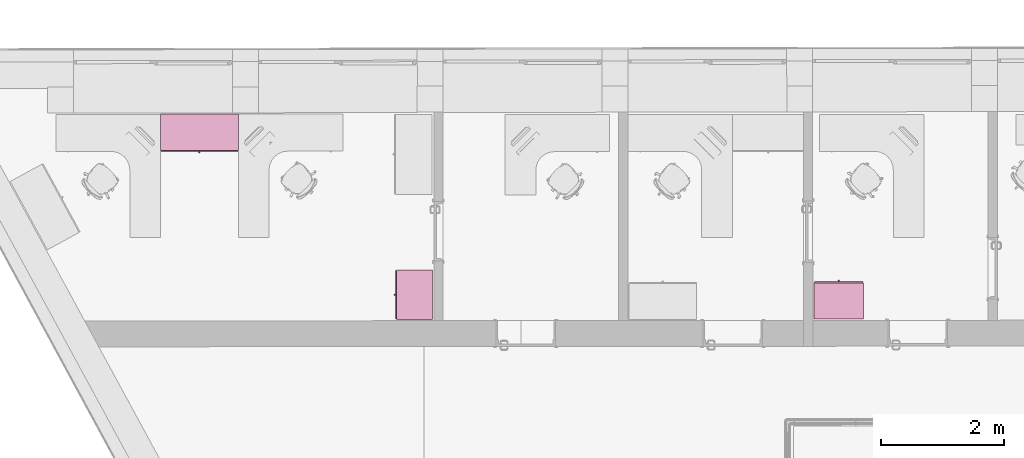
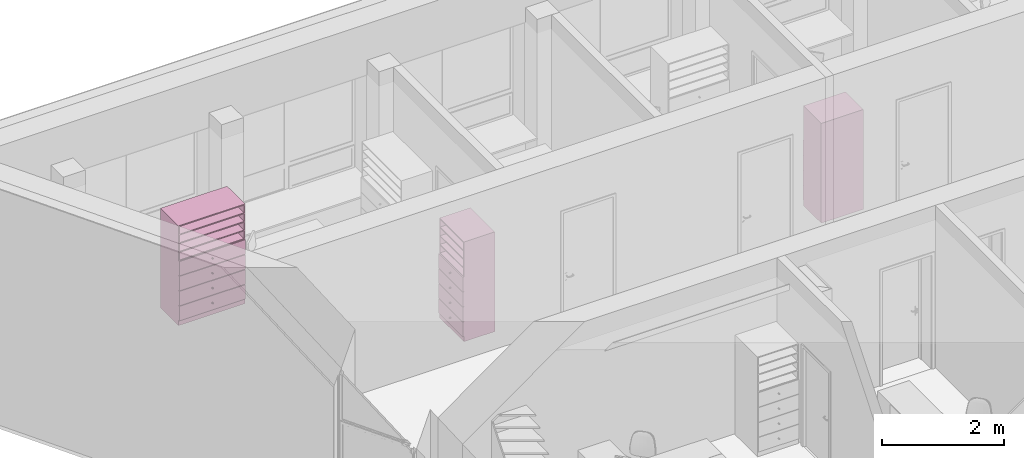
# One storey, part 127 of 194: 3 furnishings.
"""IFC2X3 building model written with IfcOpenShell, lengths in millimetres."""

from ifc_helpers import new_model, entity, si_unit, converted_unit, derived_unit, money_unit, direction, frame, origin_with_axes, place, context, subcontext, project, spatial, faceted_brep, source, transform, mapped, type_object, element, save


model = new_model("IFC2X3")

# Units and contexts
model_context = context("Model", 3, precision=1e-05, world=origin_with_axes(), true_north=direction((0.0, 1.0)))
body_context = subcontext(model_context, "Body", "Model", "MODEL_VIEW")
ifc_project = project(units=[si_unit("LENGTHUNIT", "METRE", prefix="MILLI"), si_unit("AREAUNIT", "SQUARE_METRE"), si_unit("VOLUMEUNIT", "CUBIC_METRE"), converted_unit("PLANEANGLEUNIT", "DEGREE", entity("IfcPlaneAngleMeasure", 0.0174532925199), si_unit("PLANEANGLEUNIT", "RADIAN"), dimensions=[0, 0, 0, 0, 0, 0, 0]), si_unit("SOLIDANGLEUNIT", "STERADIAN"), money_unit("EUR"), converted_unit("TIMEUNIT", "Year", entity("IfcTimeMeasure", 31556926.0), si_unit("TIMEUNIT", "SECOND"), dimensions=[0, 0, 1, 0, 0, 0, 0]), si_unit("MASSUNIT", "GRAM", prefix="KILO"), si_unit("THERMODYNAMICTEMPERATUREUNIT", "DEGREE_CELSIUS"), si_unit("LUMINOUSINTENSITYUNIT", "LUMEN"), si_unit("ENERGYUNIT", "JOULE", prefix="MEGA"), derived_unit("THERMALCONDUCTANCEUNIT", [(si_unit("POWERUNIT", "WATT"), 1), (si_unit("LENGTHUNIT", "METRE"), -1), (si_unit("THERMODYNAMICTEMPERATUREUNIT", "KELVIN"), -1)]), derived_unit("SPECIFICHEATCAPACITYUNIT", [(si_unit("ENERGYUNIT", "JOULE"), 1), (si_unit("MASSUNIT", "GRAM", prefix="KILO"), -1), (si_unit("THERMODYNAMICTEMPERATUREUNIT", "KELVIN"), -1)]), derived_unit("MASSDENSITYUNIT", [(si_unit("MASSUNIT", "GRAM", prefix="KILO"), 1), (si_unit("VOLUMEUNIT", "CUBIC_METRE"), -1)])], contexts=[model_context])

# Site, building, storey
site_placement = place(None, origin_with_axes())
site = spatial("IfcSite", under=ifc_project, at=site_placement, Name="Site", CompositionType="ELEMENT")
building_placement = place(site_placement, origin_with_axes())
building = spatial("IfcBuilding", under=site, at=building_placement, Name="Building", CompositionType="ELEMENT")
storey_placement = place(building_placement, frame((0.0, 0.0, 3000.0), z_axis=(0.0, 0.0, 1.0), x_axis=(1.0, 0.0, 0.0)))
storey = spatial("IfcBuildingStorey", under=building, at=storey_placement, Name="2 KORRUS", CompositionType="ELEMENT", Elevation=3000.0)

# Furnishings
furnishing_element_type_1 = type_object("IfcFurnishingElementType", Name="Model Element 16")
shared_shape_1 = source(origin_with_axes(), body_context, "Body", "Brep", [
    faceted_brep([(1262.46161787, 19.0, 0.0), (0.0, 19.0, 0.0), (0.0, 605.7383933, 0.0), (1262.46161787, 605.7383933, 0.0), (1262.46161787, 19.0, 100.0), (0.0, 19.0, 100.0), (0.0, 605.7383933, 100.0), (1262.46161787, 605.7383933, 100.0)], [[[0, 1, 2, 3]], [[1, 0, 4, 5]], [[2, 1, 5, 6]], [[3, 2, 6, 7]], [[0, 3, 7, 4]], [[5, 4, 7, 6]]]),
    faceted_brep([(19.0, 605.7383933, 119.0), (19.0, 586.7383933, 119.0), (19.0, 586.7383933, 1981.0), (19.0, 605.7383933, 1981.0), (1243.46161787, 605.7383933, 119.0), (1243.46161787, 586.7383933, 119.0), (1243.46161787, 586.7383933, 1981.0), (1243.46161787, 605.7383933, 1981.0)], [[[0, 1, 2, 3]], [[0, 4, 5, 1]], [[1, 5, 6, 2]], [[3, 2, 6, 7]], [[4, 0, 3, 7]], [[5, 4, 7, 6]]]),
    faceted_brep([(1262.46161787, 19.0, 100.0), (1243.46161787, 19.0, 100.0), (1243.46161787, 605.7383933, 100.0), (1262.46161787, 605.7383933, 100.0), (1262.46161787, 19.0, 2000.0), (1243.46161787, 19.0, 2000.0), (1243.46161787, 605.7383933, 2000.0), (1262.46161787, 605.7383933, 2000.0)], [[[0, 1, 2, 3]], [[1, 0, 4, 5]], [[2, 1, 5, 6]], [[3, 2, 6, 7]], [[0, 3, 7, 4]], [[5, 4, 7, 6]]]),
    faceted_brep([(19.0, 19.0, 100.0), (0.0, 19.0, 100.0), (0.0, 605.7383933, 100.0), (19.0, 605.7383933, 100.0), (19.0, 19.0, 2000.0), (0.0, 19.0, 2000.0), (0.0, 605.7383933, 2000.0), (19.0, 605.7383933, 2000.0)], [[[0, 1, 2, 3]], [[1, 0, 4, 5]], [[2, 1, 5, 6]], [[3, 2, 6, 7]], [[0, 3, 7, 4]], [[5, 4, 7, 6]]]),
    faceted_brep([(1243.46161787, 19.0, 100.0), (19.0, 19.0, 100.0), (19.0, 605.7383933, 100.0), (1243.46161787, 605.7383933, 100.0), (1243.46161787, 19.0, 119.0), (19.0, 19.0, 119.0), (19.0, 605.7383933, 119.0), (1243.46161787, 605.7383933, 119.0)], [[[0, 1, 2, 3]], [[1, 0, 4, 5]], [[2, 1, 5, 6]], [[3, 2, 6, 7]], [[0, 3, 7, 4]], [[5, 4, 7, 6]]]),
    faceted_brep([(1243.46161787, 19.0, 1981.0), (19.0, 19.0, 1981.0), (19.0, 605.7383933, 1981.0), (1243.46161787, 605.7383933, 1981.0), (1243.46161787, 19.0, 2000.0), (19.0, 19.0, 2000.0), (19.0, 605.7383933, 2000.0), (1243.46161787, 605.7383933, 2000.0)], [[[0, 1, 2, 3]], [[1, 0, 4, 5]], [[2, 1, 5, 6]], [[3, 2, 6, 7]], [[0, 3, 7, 4]], [[5, 4, 7, 6]]]),
    faceted_brep([(5.0, 19.0, 105.0), (1257.46161787, 19.0, 105.0), (1257.46161787, 0.0, 105.0), (5.0, 0.0, 105.0), (5.0, 19.0, 395.0), (1257.46161787, 19.0, 395.0), (1257.46161787, 0.0, 395.0), (5.0, 0.0, 395.0)], [[[0, 1, 2, 3]], [[0, 4, 5, 1]], [[1, 5, 6, 2]], [[3, 2, 6, 7]], [[4, 0, 3, 7]], [[5, 4, 7, 6]]]),
    faceted_brep([(641.623113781, 0.0, 244.0), (637.230808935, 0.0, 239.607695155), (631.230808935, 0.0, 238.0), (625.230808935, 0.0, 239.607695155), (620.83850409, 0.0, 244.0), (619.230808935, 0.0, 250.0), (620.83850409, 0.0, 256.0), (625.230808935, 0.0, 260.392304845), (631.230808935, 0.0, 262.0), (637.230808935, 0.0, 260.392304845), (641.623113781, 0.0, 256.0), (643.230808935, 0.0, 250.0), (641.623113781, -25.0, 244.0), (637.230808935, -25.0, 239.607695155), (631.230808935, -25.0, 238.0), (625.230808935, -25.0, 239.607695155), (620.83850409, -25.0, 244.0), (619.230808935, -25.0, 250.0), (620.83850409, -25.0, 256.0), (625.230808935, -25.0, 260.392304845), (631.230808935, -25.0, 262.0), (637.230808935, -25.0, 260.392304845), (641.623113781, -25.0, 256.0), (643.230808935, -25.0, 250.0)], [[[0, 1, 2, 3, 4, 5, 6, 7, 8, 9, 10, 11]], [[1, 0, 12, 13]], [[2, 1, 13, 14]], [[3, 2, 14, 15]], [[4, 3, 15, 16]], [[5, 4, 16, 17]], [[6, 5, 17, 18]], [[7, 6, 18, 19]], [[8, 7, 19, 20]], [[9, 8, 20, 21]], [[10, 9, 21, 22]], [[11, 10, 22, 23]], [[0, 11, 23, 12]], [[12, 23, 22, 21, 20, 19, 18, 17, 16, 15, 14, 13]]]),
    faceted_brep([(5.0, 19.0, 405.0), (1257.46161787, 19.0, 405.0), (1257.46161787, 0.0, 405.0), (5.0, 0.0, 405.0), (5.0, 19.0, 695.0), (1257.46161787, 19.0, 695.0), (1257.46161787, 0.0, 695.0), (5.0, 0.0, 695.0)], [[[0, 1, 2, 3]], [[0, 4, 5, 1]], [[1, 5, 6, 2]], [[3, 2, 6, 7]], [[4, 0, 3, 7]], [[5, 4, 7, 6]]]),
    faceted_brep([(641.623113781, 0.0, 544.0), (637.230808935, 0.0, 539.607695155), (631.230808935, 0.0, 538.0), (625.230808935, 0.0, 539.607695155), (620.83850409, 0.0, 544.0), (619.230808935, 0.0, 550.0), (620.83850409, 0.0, 556.0), (625.230808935, 0.0, 560.392304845), (631.230808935, 0.0, 562.0), (637.230808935, 0.0, 560.392304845), (641.623113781, 0.0, 556.0), (643.230808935, 0.0, 550.0), (641.623113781, -25.0, 544.0), (637.230808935, -25.0, 539.607695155), (631.230808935, -25.0, 538.0), (625.230808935, -25.0, 539.607695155), (620.83850409, -25.0, 544.0), (619.230808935, -25.0, 550.0), (620.83850409, -25.0, 556.0), (625.230808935, -25.0, 560.392304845), (631.230808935, -25.0, 562.0), (637.230808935, -25.0, 560.392304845), (641.623113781, -25.0, 556.0), (643.230808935, -25.0, 550.0)], [[[0, 1, 2, 3, 4, 5, 6, 7, 8, 9, 10, 11]], [[1, 0, 12, 13]], [[2, 1, 13, 14]], [[3, 2, 14, 15]], [[4, 3, 15, 16]], [[5, 4, 16, 17]], [[6, 5, 17, 18]], [[7, 6, 18, 19]], [[8, 7, 19, 20]], [[9, 8, 20, 21]], [[10, 9, 21, 22]], [[11, 10, 22, 23]], [[0, 11, 23, 12]], [[12, 23, 22, 21, 20, 19, 18, 17, 16, 15, 14, 13]]]),
    faceted_brep([(5.0, 19.0, 705.0), (1257.46161787, 19.0, 705.0), (1257.46161787, 0.0, 705.0), (5.0, 0.0, 705.0), (5.0, 19.0, 995.0), (1257.46161787, 19.0, 995.0), (1257.46161787, 0.0, 995.0), (5.0, 0.0, 995.0)], [[[0, 1, 2, 3]], [[0, 4, 5, 1]], [[1, 5, 6, 2]], [[3, 2, 6, 7]], [[4, 0, 3, 7]], [[5, 4, 7, 6]]]),
    faceted_brep([(641.623113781, 0.0, 844.0), (637.230808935, 0.0, 839.607695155), (631.230808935, 0.0, 838.0), (625.230808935, 0.0, 839.607695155), (620.83850409, 0.0, 844.0), (619.230808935, 0.0, 850.0), (620.83850409, 0.0, 856.0), (625.230808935, 0.0, 860.392304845), (631.230808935, 0.0, 862.0), (637.230808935, 0.0, 860.392304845), (641.623113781, 0.0, 856.0), (643.230808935, 0.0, 850.0), (641.623113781, -25.0, 844.0), (637.230808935, -25.0, 839.607695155), (631.230808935, -25.0, 838.0), (625.230808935, -25.0, 839.607695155), (620.83850409, -25.0, 844.0), (619.230808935, -25.0, 850.0), (620.83850409, -25.0, 856.0), (625.230808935, -25.0, 860.392304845), (631.230808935, -25.0, 862.0), (637.230808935, -25.0, 860.392304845), (641.623113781, -25.0, 856.0), (643.230808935, -25.0, 850.0)], [[[0, 1, 2, 3, 4, 5, 6, 7, 8, 9, 10, 11]], [[1, 0, 12, 13]], [[2, 1, 13, 14]], [[3, 2, 14, 15]], [[4, 3, 15, 16]], [[5, 4, 16, 17]], [[6, 5, 17, 18]], [[7, 6, 18, 19]], [[8, 7, 19, 20]], [[9, 8, 20, 21]], [[10, 9, 21, 22]], [[11, 10, 22, 23]], [[0, 11, 23, 12]], [[12, 23, 22, 21, 20, 19, 18, 17, 16, 15, 14, 13]]]),
    faceted_brep([(5.0, 19.0, 1005.0), (1257.46161787, 19.0, 1005.0), (1257.46161787, 0.0, 1005.0), (5.0, 0.0, 1005.0), (5.0, 19.0, 1295.0), (1257.46161787, 19.0, 1295.0), (1257.46161787, 0.0, 1295.0), (5.0, 0.0, 1295.0)], [[[0, 1, 2, 3]], [[0, 4, 5, 1]], [[1, 5, 6, 2]], [[3, 2, 6, 7]], [[4, 0, 3, 7]], [[5, 4, 7, 6]]]),
    faceted_brep([(641.623113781, 0.0, 1144.0), (637.230808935, 0.0, 1139.60769515), (631.230808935, 0.0, 1138.0), (625.230808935, 0.0, 1139.60769515), (620.83850409, 0.0, 1144.0), (619.230808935, 0.0, 1150.0), (620.83850409, 0.0, 1156.0), (625.230808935, 0.0, 1160.39230485), (631.230808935, 0.0, 1162.0), (637.230808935, 0.0, 1160.39230485), (641.623113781, 0.0, 1156.0), (643.230808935, 0.0, 1150.0), (641.623113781, -25.0, 1144.0), (637.230808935, -25.0, 1139.60769515), (631.230808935, -25.0, 1138.0), (625.230808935, -25.0, 1139.60769515), (620.83850409, -25.0, 1144.0), (619.230808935, -25.0, 1150.0), (620.83850409, -25.0, 1156.0), (625.230808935, -25.0, 1160.39230485), (631.230808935, -25.0, 1162.0), (637.230808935, -25.0, 1160.39230485), (641.623113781, -25.0, 1156.0), (643.230808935, -25.0, 1150.0)], [[[0, 1, 2, 3, 4, 5, 6, 7, 8, 9, 10, 11]], [[1, 0, 12, 13]], [[2, 1, 13, 14]], [[3, 2, 14, 15]], [[4, 3, 15, 16]], [[5, 4, 16, 17]], [[6, 5, 17, 18]], [[7, 6, 18, 19]], [[8, 7, 19, 20]], [[9, 8, 20, 21]], [[10, 9, 21, 22]], [[11, 10, 22, 23]], [[0, 11, 23, 12]], [[12, 23, 22, 21, 20, 19, 18, 17, 16, 15, 14, 13]]]),
    faceted_brep([(19.0, 19.0, 390.5), (1243.46161787, 19.0, 390.5), (1243.46161787, 19.0, 409.5), (19.0, 19.0, 409.5), (19.0, 586.7383933, 390.5), (1243.46161787, 586.7383933, 390.5), (1243.46161787, 586.7383933, 409.5), (19.0, 586.7383933, 409.5)], [[[0, 1, 2, 3]], [[0, 4, 5, 1]], [[1, 5, 6, 2]], [[3, 2, 6, 7]], [[4, 0, 3, 7]], [[5, 4, 7, 6]]]),
    faceted_brep([(19.0, 19.0, 690.5), (1243.46161787, 19.0, 690.5), (1243.46161787, 19.0, 709.5), (19.0, 19.0, 709.5), (19.0, 586.7383933, 690.5), (1243.46161787, 586.7383933, 690.5), (1243.46161787, 586.7383933, 709.5), (19.0, 586.7383933, 709.5)], [[[0, 1, 2, 3]], [[0, 4, 5, 1]], [[1, 5, 6, 2]], [[3, 2, 6, 7]], [[4, 0, 3, 7]], [[5, 4, 7, 6]]]),
    faceted_brep([(19.0, 19.0, 990.5), (1243.46161787, 19.0, 990.5), (1243.46161787, 19.0, 1009.5), (19.0, 19.0, 1009.5), (19.0, 586.7383933, 990.5), (1243.46161787, 586.7383933, 990.5), (1243.46161787, 586.7383933, 1009.5), (19.0, 586.7383933, 1009.5)], [[[0, 1, 2, 3]], [[0, 4, 5, 1]], [[1, 5, 6, 2]], [[3, 2, 6, 7]], [[4, 0, 3, 7]], [[5, 4, 7, 6]]]),
    faceted_brep([(19.0, 19.0, 1290.5), (1243.46161787, 19.0, 1290.5), (1243.46161787, 19.0, 1309.5), (19.0, 19.0, 1309.5), (19.0, 586.7383933, 1290.5), (1243.46161787, 586.7383933, 1290.5), (1243.46161787, 586.7383933, 1309.5), (19.0, 586.7383933, 1309.5)], [[[0, 1, 2, 3]], [[0, 4, 5, 1]], [[1, 5, 6, 2]], [[3, 2, 6, 7]], [[4, 0, 3, 7]], [[5, 4, 7, 6]]]),
    faceted_brep([(1243.46161787, 19.0, 1463.125), (19.0, 19.0, 1463.125), (19.0, 586.7383933, 1463.125), (1243.46161787, 586.7383933, 1463.125), (1243.46161787, 19.0, 1482.125), (19.0, 19.0, 1482.125), (19.0, 586.7383933, 1482.125), (1243.46161787, 586.7383933, 1482.125)], [[[0, 1, 2, 3]], [[1, 0, 4, 5]], [[2, 1, 5, 6]], [[3, 2, 6, 7]], [[0, 3, 7, 4]], [[5, 4, 7, 6]]]),
    faceted_brep([(1243.46161787, 19.0, 1635.75), (19.0, 19.0, 1635.75), (19.0, 586.7383933, 1635.75), (1243.46161787, 586.7383933, 1635.75), (1243.46161787, 19.0, 1654.75), (19.0, 19.0, 1654.75), (19.0, 586.7383933, 1654.75), (1243.46161787, 586.7383933, 1654.75)], [[[0, 1, 2, 3]], [[1, 0, 4, 5]], [[2, 1, 5, 6]], [[3, 2, 6, 7]], [[0, 3, 7, 4]], [[5, 4, 7, 6]]]),
    faceted_brep([(1243.46161787, 19.0, 1808.375), (19.0, 19.0, 1808.375), (19.0, 586.7383933, 1808.375), (1243.46161787, 586.7383933, 1808.375), (1243.46161787, 19.0, 1827.375), (19.0, 19.0, 1827.375), (19.0, 586.7383933, 1827.375), (1243.46161787, 586.7383933, 1827.375)], [[[0, 1, 2, 3]], [[1, 0, 4, 5]], [[2, 1, 5, 6]], [[3, 2, 6, 7]], [[0, 3, 7, 4]], [[5, 4, 7, 6]]]),
])
furnishing_placement = place(storey_placement, frame((14568.2014755, 45827.6939016, 0.0), z_axis=(0.0, 0.0, 1.0), x_axis=(1.0, 0.0, 0.0)))
element("IfcFurnishingElement", 1, at=furnishing_placement, inside=storey, type_object=furnishing_element_type_1, Name="FU - 001", context=body_context, shape_type="MappedRepresentation", body=[
    mapped(shared_shape_1, transform((0.0, 0.0, 0.0))),
])
furnishing_element_type_2 = type_object("IfcFurnishingElementType", Name="Model Element 13")
shared_shape_2 = source(origin_with_axes(), body_context, "Body", "Brep", [
    faceted_brep([(800.0, 19.0, 0.0), (0.0, 19.0, 0.0), (0.0, 605.420194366, 0.0), (800.0, 605.420194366, 0.0), (800.0, 19.0, 100.0), (0.0, 19.0, 100.0), (0.0, 605.420194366, 100.0), (800.0, 605.420194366, 100.0)], [[[0, 1, 2, 3]], [[1, 0, 4, 5]], [[2, 1, 5, 6]], [[3, 2, 6, 7]], [[0, 3, 7, 4]], [[5, 4, 7, 6]]]),
    faceted_brep([(19.0, 605.420194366, 119.0), (19.0, 586.420194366, 119.0), (19.0, 586.420194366, 1981.0), (19.0, 605.420194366, 1981.0), (781.0, 605.420194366, 119.0), (781.0, 586.420194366, 119.0), (781.0, 586.420194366, 1981.0), (781.0, 605.420194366, 1981.0)], [[[0, 1, 2, 3]], [[0, 4, 5, 1]], [[1, 5, 6, 2]], [[3, 2, 6, 7]], [[4, 0, 3, 7]], [[5, 4, 7, 6]]]),
    faceted_brep([(800.0, 19.0, 100.0), (781.0, 19.0, 100.0), (781.0, 605.420194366, 100.0), (800.0, 605.420194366, 100.0), (800.0, 19.0, 2000.0), (781.0, 19.0, 2000.0), (781.0, 605.420194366, 2000.0), (800.0, 605.420194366, 2000.0)], [[[0, 1, 2, 3]], [[1, 0, 4, 5]], [[2, 1, 5, 6]], [[3, 2, 6, 7]], [[0, 3, 7, 4]], [[5, 4, 7, 6]]]),
    faceted_brep([(19.0, 19.0, 100.0), (0.0, 19.0, 100.0), (0.0, 605.420194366, 100.0), (19.0, 605.420194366, 100.0), (19.0, 19.0, 2000.0), (0.0, 19.0, 2000.0), (0.0, 605.420194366, 2000.0), (19.0, 605.420194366, 2000.0)], [[[0, 1, 2, 3]], [[1, 0, 4, 5]], [[2, 1, 5, 6]], [[3, 2, 6, 7]], [[0, 3, 7, 4]], [[5, 4, 7, 6]]]),
    faceted_brep([(781.0, 19.0, 100.0), (19.0, 19.0, 100.0), (19.0, 605.420194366, 100.0), (781.0, 605.420194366, 100.0), (781.0, 19.0, 119.0), (19.0, 19.0, 119.0), (19.0, 605.420194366, 119.0), (781.0, 605.420194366, 119.0)], [[[0, 1, 2, 3]], [[1, 0, 4, 5]], [[2, 1, 5, 6]], [[3, 2, 6, 7]], [[0, 3, 7, 4]], [[5, 4, 7, 6]]]),
    faceted_brep([(781.0, 19.0, 1981.0), (19.0, 19.0, 1981.0), (19.0, 605.420194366, 1981.0), (781.0, 605.420194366, 1981.0), (781.0, 19.0, 2000.0), (19.0, 19.0, 2000.0), (19.0, 605.420194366, 2000.0), (781.0, 605.420194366, 2000.0)], [[[0, 1, 2, 3]], [[1, 0, 4, 5]], [[2, 1, 5, 6]], [[3, 2, 6, 7]], [[0, 3, 7, 4]], [[5, 4, 7, 6]]]),
    faceted_brep([(5.0, 19.0, 105.0), (795.0, 19.0, 105.0), (795.0, 0.0, 105.0), (5.0, 0.0, 105.0), (5.0, 19.0, 395.0), (795.0, 19.0, 395.0), (795.0, 0.0, 395.0), (5.0, 0.0, 395.0)], [[[0, 1, 2, 3]], [[0, 4, 5, 1]], [[1, 5, 6, 2]], [[3, 2, 6, 7]], [[4, 0, 3, 7]], [[5, 4, 7, 6]]]),
    faceted_brep([(410.392304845, 0.0, 244.0), (406.0, 0.0, 239.607695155), (400.0, 0.0, 238.0), (394.0, 0.0, 239.607695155), (389.607695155, 0.0, 244.0), (388.0, 0.0, 250.0), (389.607695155, 0.0, 256.0), (394.0, 0.0, 260.392304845), (400.0, 0.0, 262.0), (406.0, 0.0, 260.392304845), (410.392304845, 0.0, 256.0), (412.0, 0.0, 250.0), (410.392304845, -25.0, 244.0), (406.0, -25.0, 239.607695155), (400.0, -25.0, 238.0), (394.0, -25.0, 239.607695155), (389.607695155, -25.0, 244.0), (388.0, -25.0, 250.0), (389.607695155, -25.0, 256.0), (394.0, -25.0, 260.392304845), (400.0, -25.0, 262.0), (406.0, -25.0, 260.392304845), (410.392304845, -25.0, 256.0), (412.0, -25.0, 250.0)], [[[0, 1, 2, 3, 4, 5, 6, 7, 8, 9, 10, 11]], [[1, 0, 12, 13]], [[2, 1, 13, 14]], [[3, 2, 14, 15]], [[4, 3, 15, 16]], [[5, 4, 16, 17]], [[6, 5, 17, 18]], [[7, 6, 18, 19]], [[8, 7, 19, 20]], [[9, 8, 20, 21]], [[10, 9, 21, 22]], [[11, 10, 22, 23]], [[0, 11, 23, 12]], [[12, 23, 22, 21, 20, 19, 18, 17, 16, 15, 14, 13]]]),
    faceted_brep([(5.0, 19.0, 405.0), (795.0, 19.0, 405.0), (795.0, 0.0, 405.0), (5.0, 0.0, 405.0), (5.0, 19.0, 695.0), (795.0, 19.0, 695.0), (795.0, 0.0, 695.0), (5.0, 0.0, 695.0)], [[[0, 1, 2, 3]], [[0, 4, 5, 1]], [[1, 5, 6, 2]], [[3, 2, 6, 7]], [[4, 0, 3, 7]], [[5, 4, 7, 6]]]),
    faceted_brep([(410.392304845, 0.0, 544.0), (406.0, 0.0, 539.607695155), (400.0, 0.0, 538.0), (394.0, 0.0, 539.607695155), (389.607695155, 0.0, 544.0), (388.0, 0.0, 550.0), (389.607695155, 0.0, 556.0), (394.0, 0.0, 560.392304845), (400.0, 0.0, 562.0), (406.0, 0.0, 560.392304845), (410.392304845, 0.0, 556.0), (412.0, 0.0, 550.0), (410.392304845, -25.0, 544.0), (406.0, -25.0, 539.607695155), (400.0, -25.0, 538.0), (394.0, -25.0, 539.607695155), (389.607695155, -25.0, 544.0), (388.0, -25.0, 550.0), (389.607695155, -25.0, 556.0), (394.0, -25.0, 560.392304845), (400.0, -25.0, 562.0), (406.0, -25.0, 560.392304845), (410.392304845, -25.0, 556.0), (412.0, -25.0, 550.0)], [[[0, 1, 2, 3, 4, 5, 6, 7, 8, 9, 10, 11]], [[1, 0, 12, 13]], [[2, 1, 13, 14]], [[3, 2, 14, 15]], [[4, 3, 15, 16]], [[5, 4, 16, 17]], [[6, 5, 17, 18]], [[7, 6, 18, 19]], [[8, 7, 19, 20]], [[9, 8, 20, 21]], [[10, 9, 21, 22]], [[11, 10, 22, 23]], [[0, 11, 23, 12]], [[12, 23, 22, 21, 20, 19, 18, 17, 16, 15, 14, 13]]]),
    faceted_brep([(5.0, 19.0, 705.0), (795.0, 19.0, 705.0), (795.0, 0.0, 705.0), (5.0, 0.0, 705.0), (5.0, 19.0, 995.0), (795.0, 19.0, 995.0), (795.0, 0.0, 995.0), (5.0, 0.0, 995.0)], [[[0, 1, 2, 3]], [[0, 4, 5, 1]], [[1, 5, 6, 2]], [[3, 2, 6, 7]], [[4, 0, 3, 7]], [[5, 4, 7, 6]]]),
    faceted_brep([(410.392304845, 0.0, 844.0), (406.0, 0.0, 839.607695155), (400.0, 0.0, 838.0), (394.0, 0.0, 839.607695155), (389.607695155, 0.0, 844.0), (388.0, 0.0, 850.0), (389.607695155, 0.0, 856.0), (394.0, 0.0, 860.392304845), (400.0, 0.0, 862.0), (406.0, 0.0, 860.392304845), (410.392304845, 0.0, 856.0), (412.0, 0.0, 850.0), (410.392304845, -25.0, 844.0), (406.0, -25.0, 839.607695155), (400.0, -25.0, 838.0), (394.0, -25.0, 839.607695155), (389.607695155, -25.0, 844.0), (388.0, -25.0, 850.0), (389.607695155, -25.0, 856.0), (394.0, -25.0, 860.392304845), (400.0, -25.0, 862.0), (406.0, -25.0, 860.392304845), (410.392304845, -25.0, 856.0), (412.0, -25.0, 850.0)], [[[0, 1, 2, 3, 4, 5, 6, 7, 8, 9, 10, 11]], [[1, 0, 12, 13]], [[2, 1, 13, 14]], [[3, 2, 14, 15]], [[4, 3, 15, 16]], [[5, 4, 16, 17]], [[6, 5, 17, 18]], [[7, 6, 18, 19]], [[8, 7, 19, 20]], [[9, 8, 20, 21]], [[10, 9, 21, 22]], [[11, 10, 22, 23]], [[0, 11, 23, 12]], [[12, 23, 22, 21, 20, 19, 18, 17, 16, 15, 14, 13]]]),
    faceted_brep([(5.0, 19.0, 1005.0), (795.0, 19.0, 1005.0), (795.0, 0.0, 1005.0), (5.0, 0.0, 1005.0), (5.0, 19.0, 1295.0), (795.0, 19.0, 1295.0), (795.0, 0.0, 1295.0), (5.0, 0.0, 1295.0)], [[[0, 1, 2, 3]], [[0, 4, 5, 1]], [[1, 5, 6, 2]], [[3, 2, 6, 7]], [[4, 0, 3, 7]], [[5, 4, 7, 6]]]),
    faceted_brep([(410.392304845, 0.0, 1144.0), (406.0, 0.0, 1139.60769515), (400.0, 0.0, 1138.0), (394.0, 0.0, 1139.60769515), (389.607695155, 0.0, 1144.0), (388.0, 0.0, 1150.0), (389.607695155, 0.0, 1156.0), (394.0, 0.0, 1160.39230485), (400.0, 0.0, 1162.0), (406.0, 0.0, 1160.39230485), (410.392304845, 0.0, 1156.0), (412.0, 0.0, 1150.0), (410.392304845, -25.0, 1144.0), (406.0, -25.0, 1139.60769515), (400.0, -25.0, 1138.0), (394.0, -25.0, 1139.60769515), (389.607695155, -25.0, 1144.0), (388.0, -25.0, 1150.0), (389.607695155, -25.0, 1156.0), (394.0, -25.0, 1160.39230485), (400.0, -25.0, 1162.0), (406.0, -25.0, 1160.39230485), (410.392304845, -25.0, 1156.0), (412.0, -25.0, 1150.0)], [[[0, 1, 2, 3, 4, 5, 6, 7, 8, 9, 10, 11]], [[1, 0, 12, 13]], [[2, 1, 13, 14]], [[3, 2, 14, 15]], [[4, 3, 15, 16]], [[5, 4, 16, 17]], [[6, 5, 17, 18]], [[7, 6, 18, 19]], [[8, 7, 19, 20]], [[9, 8, 20, 21]], [[10, 9, 21, 22]], [[11, 10, 22, 23]], [[0, 11, 23, 12]], [[12, 23, 22, 21, 20, 19, 18, 17, 16, 15, 14, 13]]]),
    faceted_brep([(19.0, 19.0, 390.5), (781.0, 19.0, 390.5), (781.0, 19.0, 409.5), (19.0, 19.0, 409.5), (19.0, 586.420194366, 390.5), (781.0, 586.420194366, 390.5), (781.0, 586.420194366, 409.5), (19.0, 586.420194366, 409.5)], [[[0, 1, 2, 3]], [[0, 4, 5, 1]], [[1, 5, 6, 2]], [[3, 2, 6, 7]], [[4, 0, 3, 7]], [[5, 4, 7, 6]]]),
    faceted_brep([(19.0, 19.0, 690.5), (781.0, 19.0, 690.5), (781.0, 19.0, 709.5), (19.0, 19.0, 709.5), (19.0, 586.420194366, 690.5), (781.0, 586.420194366, 690.5), (781.0, 586.420194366, 709.5), (19.0, 586.420194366, 709.5)], [[[0, 1, 2, 3]], [[0, 4, 5, 1]], [[1, 5, 6, 2]], [[3, 2, 6, 7]], [[4, 0, 3, 7]], [[5, 4, 7, 6]]]),
    faceted_brep([(19.0, 19.0, 990.5), (781.0, 19.0, 990.5), (781.0, 19.0, 1009.5), (19.0, 19.0, 1009.5), (19.0, 586.420194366, 990.5), (781.0, 586.420194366, 990.5), (781.0, 586.420194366, 1009.5), (19.0, 586.420194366, 1009.5)], [[[0, 1, 2, 3]], [[0, 4, 5, 1]], [[1, 5, 6, 2]], [[3, 2, 6, 7]], [[4, 0, 3, 7]], [[5, 4, 7, 6]]]),
    faceted_brep([(19.0, 19.0, 1290.5), (781.0, 19.0, 1290.5), (781.0, 19.0, 1309.5), (19.0, 19.0, 1309.5), (19.0, 586.420194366, 1290.5), (781.0, 586.420194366, 1290.5), (781.0, 586.420194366, 1309.5), (19.0, 586.420194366, 1309.5)], [[[0, 1, 2, 3]], [[0, 4, 5, 1]], [[1, 5, 6, 2]], [[3, 2, 6, 7]], [[4, 0, 3, 7]], [[5, 4, 7, 6]]]),
    faceted_brep([(781.0, 19.0, 1463.125), (19.0, 19.0, 1463.125), (19.0, 586.420194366, 1463.125), (781.0, 586.420194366, 1463.125), (781.0, 19.0, 1482.125), (19.0, 19.0, 1482.125), (19.0, 586.420194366, 1482.125), (781.0, 586.420194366, 1482.125)], [[[0, 1, 2, 3]], [[1, 0, 4, 5]], [[2, 1, 5, 6]], [[3, 2, 6, 7]], [[0, 3, 7, 4]], [[5, 4, 7, 6]]]),
    faceted_brep([(781.0, 19.0, 1635.75), (19.0, 19.0, 1635.75), (19.0, 586.420194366, 1635.75), (781.0, 586.420194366, 1635.75), (781.0, 19.0, 1654.75), (19.0, 19.0, 1654.75), (19.0, 586.420194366, 1654.75), (781.0, 586.420194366, 1654.75)], [[[0, 1, 2, 3]], [[1, 0, 4, 5]], [[2, 1, 5, 6]], [[3, 2, 6, 7]], [[0, 3, 7, 4]], [[5, 4, 7, 6]]]),
    faceted_brep([(781.0, 19.0, 1808.375), (19.0, 19.0, 1808.375), (19.0, 586.420194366, 1808.375), (781.0, 586.420194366, 1808.375), (781.0, 19.0, 1827.375), (19.0, 19.0, 1827.375), (19.0, 586.420194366, 1827.375), (781.0, 586.420194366, 1827.375)], [[[0, 1, 2, 3]], [[1, 0, 4, 5]], [[2, 1, 5, 6]], [[3, 2, 6, 7]], [[0, 3, 7, 4]], [[5, 4, 7, 6]]]),
])
for number, where, z_axis, x_axis, name in (
    (2, (18379.0639189, 43901.9476084, 0.0), (0.0, 0.0, 1.0), (0.0, -1.0, 0.0), "FU - 001"),
    (3, (25979.088007, 43713.6756402, 0.0), (0.0, 0.0, 1.0), (-1.0, 0.0, 0.0), "FU - 001"),
):
    element("IfcFurnishingElement", number, at=place(storey_placement, frame(where, z_axis=z_axis, x_axis=x_axis)), inside=storey, type_object=furnishing_element_type_2, Name=name, context=body_context, shape_type="MappedRepresentation", body=[
        mapped(shared_shape_2, transform((0.0, 0.0, 0.0))),
    ])

save(model, "model.ifc")
